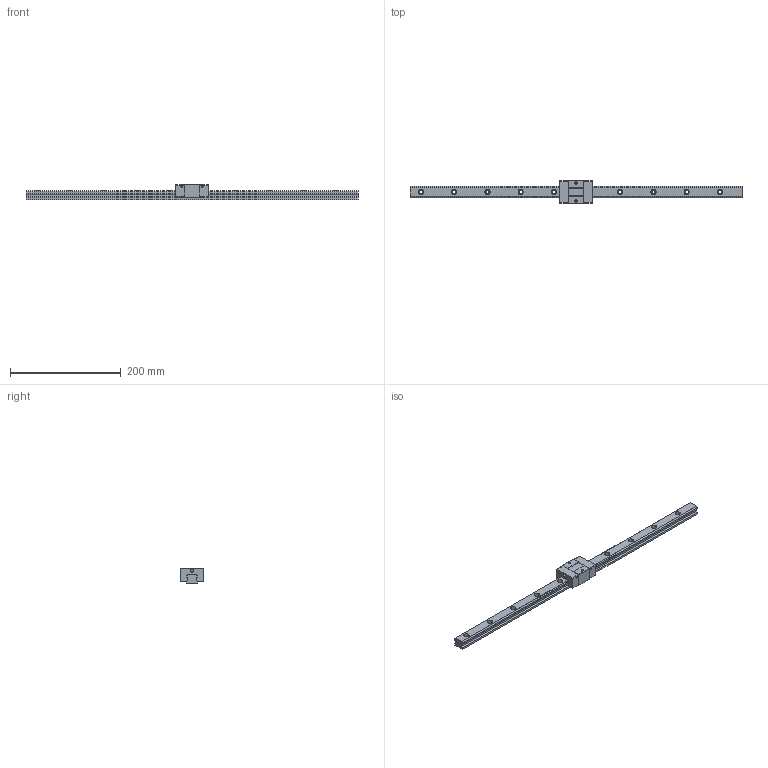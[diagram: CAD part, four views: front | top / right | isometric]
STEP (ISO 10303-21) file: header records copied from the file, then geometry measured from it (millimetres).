
FILE_DESCRIPTION (( 'STEP AP203' ), '1' );
FILE_NAME ('TRS20VS-ZN.STEP', '2024-06-12T08:59:12', ( '' ), ( '' ), 'SwSTEP 2.0', 'SolidWorks 2022', '' );
FILE_SCHEMA (( 'CONFIG_CONTROL_DESIGN' ));
Length unit declared in the file: millimetre
Products named in the file (1): TRS20VS-ZN
Bounding box: 600 x 42 x 28 mm (x, y, z)
Volume: 211645.4 mm3; surface area: 60502.7 mm2
Topology: 2 solids, 2 shells, 186 faces, 484 edges, 320 vertices
Faces by surface type: plane 94, cylinder 92
Entity records: 5863 total; most frequent: DIRECTION 1042, CARTESIAN_POINT 991, ORIENTED_EDGE 968, EDGE_CURVE 484, AXIS2_PLACEMENT_3D 371, VERTEX_POINT 320, LINE 300, VECTOR 300
